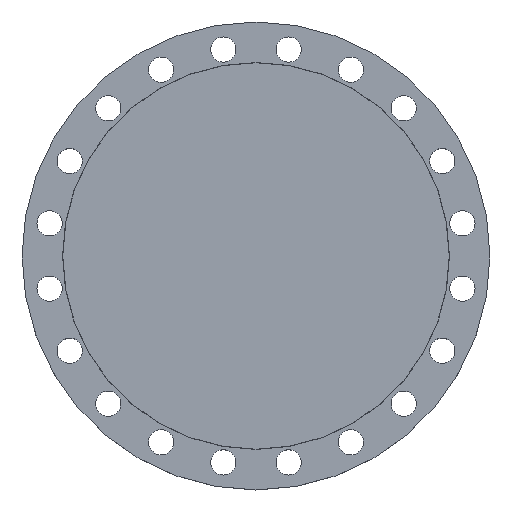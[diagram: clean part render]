
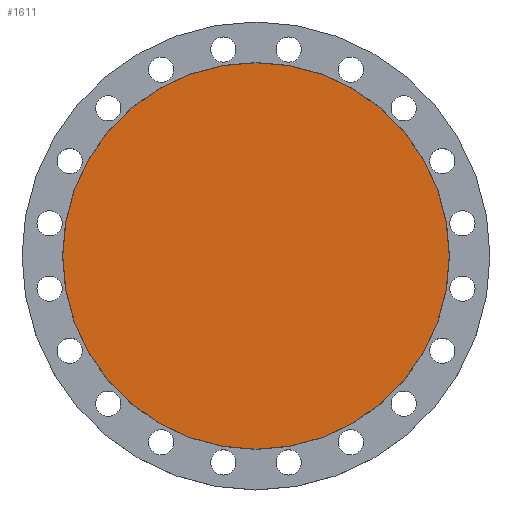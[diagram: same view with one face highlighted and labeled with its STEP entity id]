
A CAD part, top view. The second image highlights one B-rep face of the part: STEP entity #1611.
In plain terms, the highlighted planar face has unit normal (0, 0, 1).
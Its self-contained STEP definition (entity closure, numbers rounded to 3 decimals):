
#95 = DIRECTION ( 'NONE',  ( -1., 0., 0. ) ) ;
#96 = DIRECTION ( 'NONE',  ( 0., 0., -1. ) ) ;
#98 = CARTESIAN_POINT ( 'NONE',  ( 0., 0., 0. ) ) ;
#149 = CARTESIAN_POINT ( 'NONE',  ( 367.5, 0., 0. ) ) ;
#219 = CARTESIAN_POINT ( 'NONE',  ( -367.5, 0., 0. ) ) ;
#277 = EDGE_CURVE ( 'NONE', #1862, #1750, #617, .T. ) ;
#319 = DIRECTION ( 'NONE',  ( 1., 0., 0. ) ) ;
#321 = DIRECTION ( 'NONE',  ( 0., 0., 1. ) ) ;
#323 = CARTESIAN_POINT ( 'NONE',  ( 0., 0., 0. ) ) ;
#324 = PLANE ( 'NONE',  #1565 ) ;
#325 = FACE_OUTER_BOUND ( 'NONE', #1186, .T. ) ;
#617 = CIRCLE ( 'NONE', #693, 367.5 ) ;
#693 = AXIS2_PLACEMENT_3D ( 'NONE', #1064, #1063, #1062 ) ;
#1062 = DIRECTION ( 'NONE',  ( -1., 0., 0. ) ) ;
#1063 = DIRECTION ( 'NONE',  ( 0., 0., -1. ) ) ;
#1064 = CARTESIAN_POINT ( 'NONE',  ( 0., 0., 0. ) ) ;
#1186 = EDGE_LOOP ( 'NONE', ( #1457, #1458 ) ) ;
#1457 = ORIENTED_EDGE ( 'NONE', *, *, #1897, .F. ) ;
#1458 = ORIENTED_EDGE ( 'NONE', *, *, #277, .F. ) ;
#1565 = AXIS2_PLACEMENT_3D ( 'NONE', #323, #321, #319 ) ;
#1611 = ADVANCED_FACE ( 'NONE', ( #325 ), #324, .T. ) ;
#1699 = CIRCLE ( 'NONE', #1701, 367.5 ) ;
#1701 = AXIS2_PLACEMENT_3D ( 'NONE', #98, #96, #95 ) ;
#1750 = VERTEX_POINT ( 'NONE', #219 ) ;
#1862 = VERTEX_POINT ( 'NONE', #149 ) ;
#1897 = EDGE_CURVE ( 'NONE', #1750, #1862, #1699, .T. ) ;
